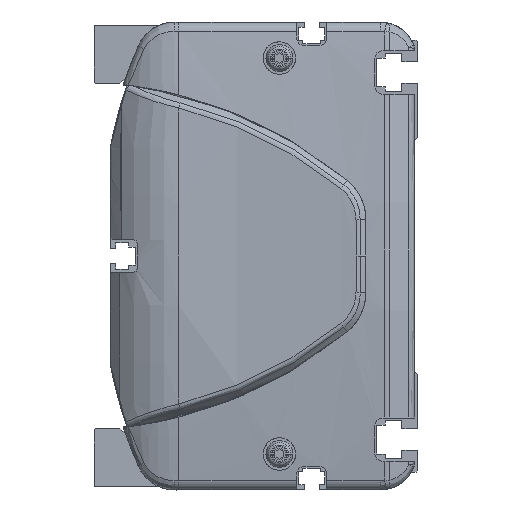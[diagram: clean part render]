
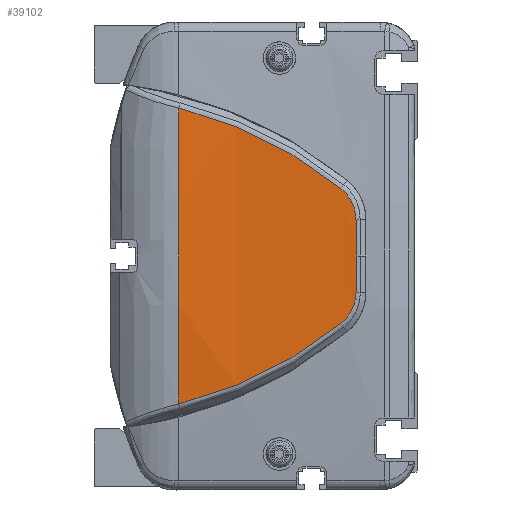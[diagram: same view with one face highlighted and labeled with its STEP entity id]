
A CAD part, left-side view. The second image highlights one B-rep face of the part: STEP entity #39102.
In plain terms, the highlighted cylindrical face has radius 500 mm (diameter 1000 mm), a partial arc.
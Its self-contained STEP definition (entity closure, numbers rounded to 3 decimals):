
#35365=CARTESIAN_POINT('',(486.,66.362,0.));
#35366=DIRECTION('',(0.,-1.,0.));
#35367=DIRECTION('',(-0.997,0.,0.082));
#35368=AXIS2_PLACEMENT_3D('',#35365,#35366,#35367);
#36242=CARTESIAN_POINT('',(-13.648,21.313,
-18.759));
#36243=CARTESIAN_POINT('',(-13.449,27.904,
-24.058));
#36244=CARTESIAN_POINT('',(-12.934,42.195,
-33.27));
#36245=CARTESIAN_POINT('',(-12.471,58.156,
-39.127));
#36246=CARTESIAN_POINT('',(-12.306,66.362,
-41.121));
#36248=CARTESIAN_POINT('',(-12.306,66.362,
41.121));
#36249=CARTESIAN_POINT('',(-12.471,58.156,
39.127));
#36250=CARTESIAN_POINT('',(-12.934,42.195,
33.27));
#36251=CARTESIAN_POINT('',(-13.449,27.904,
24.058));
#36252=CARTESIAN_POINT('',(-13.648,21.313,
18.759));
#36254=CARTESIAN_POINT('',(-13.648,21.313,
18.759));
#36255=CARTESIAN_POINT('',(-13.686,20.035,
17.736));
#36256=CARTESIAN_POINT('',(-13.779,17.936,
15.107));
#36257=CARTESIAN_POINT('',(-13.863,17.152,
11.827));
#36258=CARTESIAN_POINT('',(-13.896,17.124,
10.178));
#36260=CARTESIAN_POINT('',(-13.896,17.124,
10.178));
#36261=CARTESIAN_POINT('',(-13.92,17.107,
9.026));
#36262=CARTESIAN_POINT('',(-13.959,17.067,
6.736));
#36263=CARTESIAN_POINT('',(-13.993,16.98,
3.342));
#36264=CARTESIAN_POINT('',(-14.,16.898,
1.109));
#36265=CARTESIAN_POINT('',(-14.,16.849,
0.));
#36267=CARTESIAN_POINT('',(-14.,16.849,
0.));
#36268=CARTESIAN_POINT('',(-14.,16.898,
-1.109));
#36269=CARTESIAN_POINT('',(-13.993,16.98,
-3.343));
#36270=CARTESIAN_POINT('',(-13.959,17.067,
-6.736));
#36271=CARTESIAN_POINT('',(-13.92,17.107,
-9.028));
#36272=CARTESIAN_POINT('',(-13.896,17.124,
-10.18));
#36274=CARTESIAN_POINT('',(-13.896,17.124,
-10.18));
#36275=CARTESIAN_POINT('',(-13.863,17.152,
-11.828));
#36276=CARTESIAN_POINT('',(-13.779,17.937,
-15.109));
#36277=CARTESIAN_POINT('',(-13.686,20.035,
-17.736));
#36278=CARTESIAN_POINT('',(-13.648,21.313,
-18.759));
#36926=VERTEX_POINT('',#36242);
#36927=VERTEX_POINT('',#36246);
#36928=CARTESIAN_POINT('',(-12.306,66.362,
41.121));
#36929=VERTEX_POINT('',#36928);
#36930=VERTEX_POINT('',#36252);
#36931=VERTEX_POINT('',#36258);
#36932=VERTEX_POINT('',#36265);
#36933=VERTEX_POINT('',#36272);
#39083=CARTESIAN_POINT('',(486.,8.006,0.));
#39084=DIRECTION('',(0.,1.,0.));
#39085=DIRECTION('',(1.,0.,0.));
#39086=AXIS2_PLACEMENT_3D('',#39083,#39084,#39085);
#39087=CYLINDRICAL_SURFACE('',#39086,500.);
#39089=ORIENTED_EDGE('',*,*,#39088,.T.);
#39090=ORIENTED_EDGE('',*,*,#37728,.F.);
#39092=ORIENTED_EDGE('',*,*,#39091,.T.);
#39094=ORIENTED_EDGE('',*,*,#39093,.T.);
#39096=ORIENTED_EDGE('',*,*,#39095,.T.);
#39098=ORIENTED_EDGE('',*,*,#39097,.T.);
#39099=ORIENTED_EDGE('',*,*,#39073,.T.);
#39100=EDGE_LOOP('',(#39089,#39090,#39092,#39094,#39096,#39098,#39099));
#39101=FACE_OUTER_BOUND('',#39100,.F.);
#39102=ADVANCED_FACE('',(#39101),#39087,.T.);
#35369=CIRCLE('',#35368,500.);
#36247=B_SPLINE_CURVE_WITH_KNOTS('',3,(#36242,#36243,#36244,#36245,#36246),
.UNSPECIFIED.,.F.,.F.,(4,1,4),(0.,0.5,1.),.UNSPECIFIED.);
#36253=B_SPLINE_CURVE_WITH_KNOTS('',3,(#36248,#36249,#36250,#36251,#36252),
.UNSPECIFIED.,.F.,.F.,(4,1,4),(0.,0.5,1.),.UNSPECIFIED.);
#36259=B_SPLINE_CURVE_WITH_KNOTS('',3,(#36254,#36255,#36256,#36257,#36258),
.UNSPECIFIED.,.F.,.F.,(4,1,4),(0.,0.5,1.),.UNSPECIFIED.);
#36266=B_SPLINE_CURVE_WITH_KNOTS('',3,(#36260,#36261,#36262,#36263,#36264,
#36265),.UNSPECIFIED.,.F.,.F.,(4,1,1,4),(0.,0.333,
0.667,1.),.UNSPECIFIED.);
#36273=B_SPLINE_CURVE_WITH_KNOTS('',3,(#36267,#36268,#36269,#36270,#36271,
#36272),.UNSPECIFIED.,.F.,.F.,(4,1,1,4),(0.,0.333,
0.667,1.),.UNSPECIFIED.);
#36279=B_SPLINE_CURVE_WITH_KNOTS('',3,(#36274,#36275,#36276,#36277,#36278),
.UNSPECIFIED.,.F.,.F.,(4,1,4),(0.,0.5,1.),.UNSPECIFIED.);
#37728=EDGE_CURVE('',#36929,#36927,#35369,.T.);
#39073=EDGE_CURVE('',#36933,#36926,#36279,.T.);
#39088=EDGE_CURVE('',#36926,#36927,#36247,.T.);
#39091=EDGE_CURVE('',#36929,#36930,#36253,.T.);
#39093=EDGE_CURVE('',#36930,#36931,#36259,.T.);
#39095=EDGE_CURVE('',#36931,#36932,#36266,.T.);
#39097=EDGE_CURVE('',#36932,#36933,#36273,.T.);
